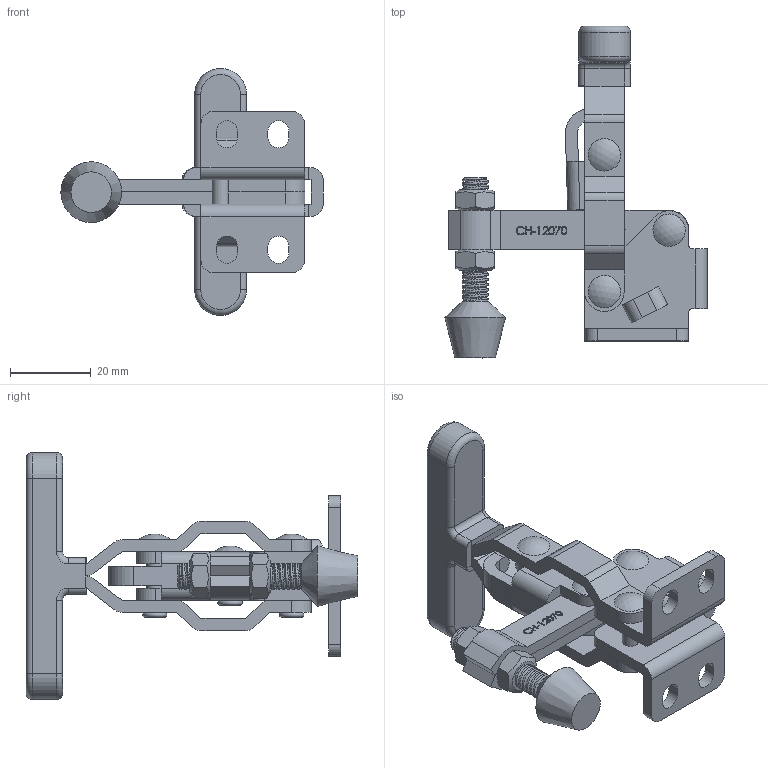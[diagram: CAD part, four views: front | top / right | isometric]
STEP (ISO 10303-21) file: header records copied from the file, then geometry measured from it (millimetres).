
FILE_DESCRIPTION(/* description */ ('STEP AP203'),/* implementation_level */ '2;1');
FILE_NAME(/* name */ 'D:\Vault_2016\Projekty\NASZ KATALOG\CLAMPTEK\STRONA\Vertical toggle clamp\CH-12070\CH-12070_ZAMKNIETY.stp',/* time_stamp */ '2019-01-18T12:49:09+01:00',/* author */ ('CADENGINEERING4'),/* organization */ ('Î¢ÈíÖÐ¹ú'),/* preprocessor_version */ 'ST-DEVELOPER v17.2',/* originating_system */ 'Autodesk Inventor 2019',/* authorisation */ '');
FILE_SCHEMA (('AUTOMOTIVE_DESIGN { 1 0 10303 214 3 1 1 }'));
Length unit declared in the file: millimetre
Products named in the file (9): CH-12070_ZAMKNIETY; CH-12050-01 FLANGED BASE; CH-12070-02 FIXED SPINDLE; CH-12070-03 T-HANDLE; CH-12050-07; CH-12050-04 CONNECTING-PLATE; CH-12050-06; CH-FC-14134 SPINDLE SUPPLIED; CH-FC-14134 Nut
Assembly tree (11 placements, depth 2):
  CH-12070_ZAMKNIETY
    CH-12050-01 FLANGED BASE
    CH-12070-02 FIXED SPINDLE
    CH-12070-03 T-HANDLE
    CH-12050-07  x2
    CH-12050-06  x2
    CH-12050-04 CONNECTING-PLATE
    CH-FC-14134 Nut  x2
    CH-FC-14134 SPINDLE SUPPLIED
Bounding box: 64.82 x 81.98 x 61 mm (x, y, z)
Volume: 26237.3 mm3; surface area: 20599.2 mm2
Topology: 12 solids, 15 shells, 631 faces, 1745 edges, 1177 vertices
Faces by surface type: plane 282, bspline 172, cylinder 139, cone 18, torus 16, sphere 4
Full cylindrical faces by diameter (mm): 1.005 x1, 1.217 x1, 4 x20, 5.1 x6, 6.4 x26
Entity records: 36550 total; most frequent: CARTESIAN_POINT 21869, ORIENTED_EDGE 3308, DIRECTION 2399, EDGE_CURVE 1654, VERTEX_POINT 1113, LINE 937, VECTOR 937, AXIS2_PLACEMENT_3D 731
